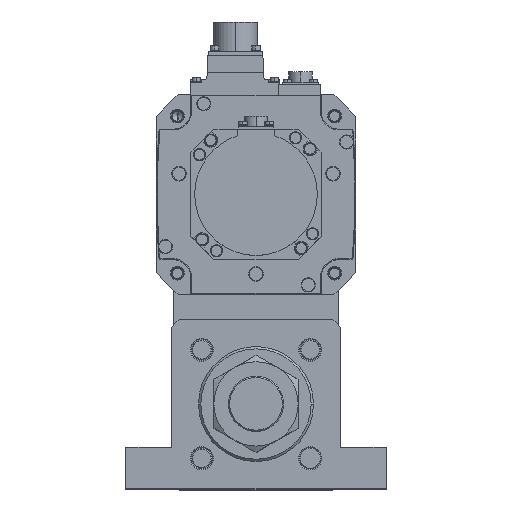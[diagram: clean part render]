
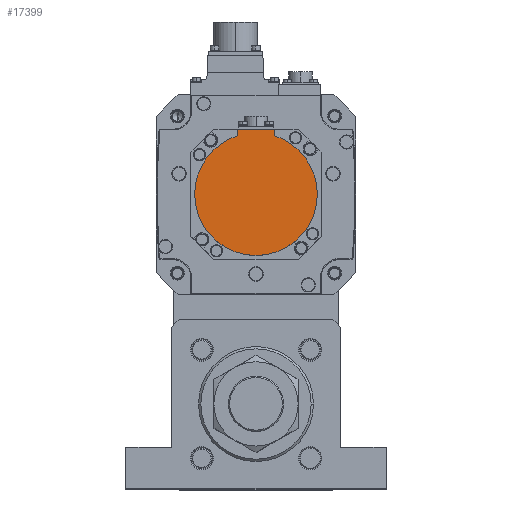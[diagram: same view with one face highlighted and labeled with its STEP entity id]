
A CAD part, top view. The second image highlights one B-rep face of the part: STEP entity #17399.
In plain terms, the highlighted planar face has unit normal (0, 0, 1) as drawn and (0, 0, -1) by its records, which use the part's own axes.
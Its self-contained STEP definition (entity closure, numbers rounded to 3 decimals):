
#1646 = CARTESIAN_POINT ( 'NONE',  ( 40., 0., -167. ) ) ;
#1865 = ORIENTED_EDGE ( 'NONE', *, *, #27337, .T. ) ;
#2776 = DIRECTION ( 'NONE',  ( 1., 0., 0. ) ) ;
#2934 = EDGE_CURVE ( 'NONE', #3521, #19888, #17558, .T. ) ;
#3259 = CARTESIAN_POINT ( 'NONE',  ( 0., 0., -167. ) ) ;
#3521 = VERTEX_POINT ( 'NONE', #36740 ) ;
#3634 = AXIS2_PLACEMENT_3D ( 'NONE', #22654, #22772, #2776 ) ;
#4195 = VERTEX_POINT ( 'NONE', #28520 ) ;
#5228 = CARTESIAN_POINT ( 'NONE',  ( 0., 0., -167. ) ) ;
#6430 = DIRECTION ( 'NONE',  ( 0., 1., 0. ) ) ;
#7001 = EDGE_CURVE ( 'NONE', #4195, #19888, #35621, .T. ) ;
#7207 = DIRECTION ( 'NONE',  ( -1., 0., 0. ) ) ;
#7410 = AXIS2_PLACEMENT_3D ( 'NONE', #3259, #8660, #20128 ) ;
#7538 = CARTESIAN_POINT ( 'NONE',  ( 12., -42.5, -167. ) ) ;
#7655 = ORIENTED_EDGE ( 'NONE', *, *, #9247, .F. ) ;
#8270 = LINE ( 'NONE', #23496, #33258 ) ;
#8409 = CARTESIAN_POINT ( 'NONE',  ( 0., -1.249, -167. ) ) ;
#8529 = DIRECTION ( 'NONE',  ( 1., 0., 0. ) ) ;
#8647 = CARTESIAN_POINT ( 'NONE',  ( -12., -40.329, -167. ) ) ;
#8660 = DIRECTION ( 'NONE',  ( 0., 0., 1. ) ) ;
#8774 = DIRECTION ( 'NONE',  ( 0., 1., 0. ) ) ;
#8859 = VERTEX_POINT ( 'NONE', #1646 ) ;
#9247 = EDGE_CURVE ( 'NONE', #9486, #35362, #8270, .T. ) ;
#9486 = VERTEX_POINT ( 'NONE', #7538 ) ;
#10612 = VECTOR ( 'NONE', #8774, 1000. ) ;
#17399 = ADVANCED_FACE ( 'NONE', ( #30546 ), #25463, .F. ) ;
#17558 = CIRCLE ( 'NONE', #3634, 40. ) ;
#18244 = CARTESIAN_POINT ( 'NONE',  ( -12., -38.158, -167. ) ) ;
#19888 = VERTEX_POINT ( 'NONE', #18244 ) ;
#20128 = DIRECTION ( 'NONE',  ( 1., 0., 0. ) ) ;
#22507 = ORIENTED_EDGE ( 'NONE', *, *, #2934, .F. ) ;
#22654 = CARTESIAN_POINT ( 'NONE',  ( 0., 0., -167. ) ) ;
#22772 = DIRECTION ( 'NONE',  ( 0., 0., 1. ) ) ;
#23496 = CARTESIAN_POINT ( 'NONE',  ( 12., -1.249, -167. ) ) ;
#24143 = CARTESIAN_POINT ( 'NONE',  ( 0., -42.5, -167. ) ) ;
#25046 = VECTOR ( 'NONE', #7207, 1000. ) ;
#25463 = PLANE ( 'NONE',  #32200 ) ;
#25552 = AXIS2_PLACEMENT_3D ( 'NONE', #5228, #33558, #36686 ) ;
#25579 = DIRECTION ( 'NONE',  ( 0., 0., 1. ) ) ;
#26893 = CIRCLE ( 'NONE', #25552, 40. ) ;
#27337 = EDGE_CURVE ( 'NONE', #9486, #4195, #34007, .T. ) ;
#28332 = ORIENTED_EDGE ( 'NONE', *, *, #35983, .F. ) ;
#28408 = ORIENTED_EDGE ( 'NONE', *, *, #35044, .F. ) ;
#28520 = CARTESIAN_POINT ( 'NONE',  ( -12., -42.5, -167. ) ) ;
#29205 = ORIENTED_EDGE ( 'NONE', *, *, #7001, .T. ) ;
#30281 = EDGE_LOOP ( 'NONE', ( #29205, #22507, #28332, #28408, #7655, #1865 ) ) ;
#30546 = FACE_OUTER_BOUND ( 'NONE', #30281, .T. ) ;
#30784 = CIRCLE ( 'NONE', #7410, 40. ) ;
#32200 = AXIS2_PLACEMENT_3D ( 'NONE', #8409, #25579, #8529 ) ;
#33258 = VECTOR ( 'NONE', #6430, 1000. ) ;
#33340 = CARTESIAN_POINT ( 'NONE',  ( 12., -38.158, -167. ) ) ;
#33558 = DIRECTION ( 'NONE',  ( 0., 0., 1. ) ) ;
#34007 = LINE ( 'NONE', #24143, #25046 ) ;
#35044 = EDGE_CURVE ( 'NONE', #35362, #8859, #30784, .T. ) ;
#35362 = VERTEX_POINT ( 'NONE', #33340 ) ;
#35621 = LINE ( 'NONE', #8647, #10612 ) ;
#35983 = EDGE_CURVE ( 'NONE', #8859, #3521, #26893, .T. ) ;
#36686 = DIRECTION ( 'NONE',  ( 1., 0., 0. ) ) ;
#36740 = CARTESIAN_POINT ( 'NONE',  ( -40., 0., -167. ) ) ;
